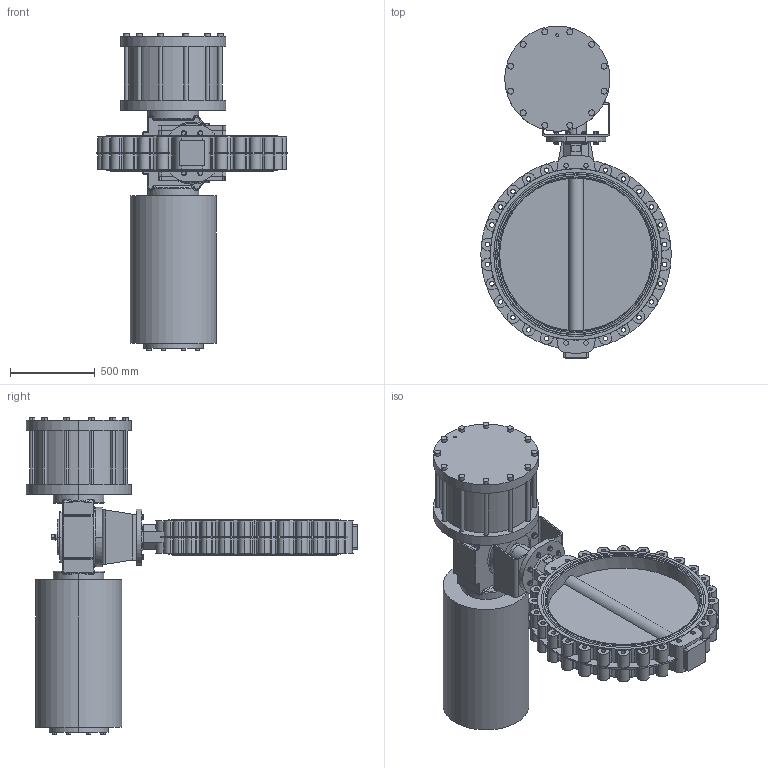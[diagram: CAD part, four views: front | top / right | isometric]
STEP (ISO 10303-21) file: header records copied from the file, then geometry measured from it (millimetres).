
FILE_DESCRIPTION (( 'STEP AP214' ), '1' );
FILE_NAME ('67397.step', '2020-10-23T12:39:43', ( '' ), ( '' ), 'SwSTEP 2.0', 'SolidWorks 2019', '' );
FILE_SCHEMA (( 'AUTOMOTIVE_DESIGN' ));
Length unit declared in the file: millimetre
Products named in the file (12): TL20-0900_M01; Passfeder DIN 6885 A_28_16x140; MB F30-F25_MB F30-F25 (1.4301); Passfeder DIN 6885 A_20_12x100; SY01F30-550 SR6; 67398; U-Scheibe DIN 125 A_M20; 6kt-Schr DIN 933_M20x40; 6kt-Mu DIN 934_M16; 67397; U-Scheibe DIN 125 A_M16; 6kt-Schr DIN 933_M16x65
Assembly tree (54 placements, depth 2):
  67397
    TL20-0900_M01
    SY01F30-550 SR6
    U-Scheibe DIN 125 A_M16  x16
    6kt-Schr DIN 933_M16x65  x8
    MB F30-F25_MB F30-F25 (1.4301)
    6kt-Mu DIN 934_M16  x8
    6kt-Schr DIN 933_M20x40  x8
    U-Scheibe DIN 125 A_M20  x8
    67398
    Passfeder DIN 6885 A_28_16x140
    Passfeder DIN 6885 A_20_12x100
Bounding box: 1119.61 x 1954 x 1872 mm (x, y, z)
Volume: 415996047.3 mm3; surface area: 9543968.5 mm2
Topology: 54 solids, 54 shells, 1907 faces, 4539 edges, 2810 vertices
Faces by surface type: plane 781, cylinder 758, cone 233, bspline 79, torus 56
Entity records: 45792 total; most frequent: CARTESIAN_POINT 12600, DIRECTION 6920, ORIENTED_EDGE 6274, EDGE_CURVE 3137, AXIS2_PLACEMENT_3D 2784, VERTEX_POINT 1990, CIRCLE 1563, EDGE_LOOP 1449
